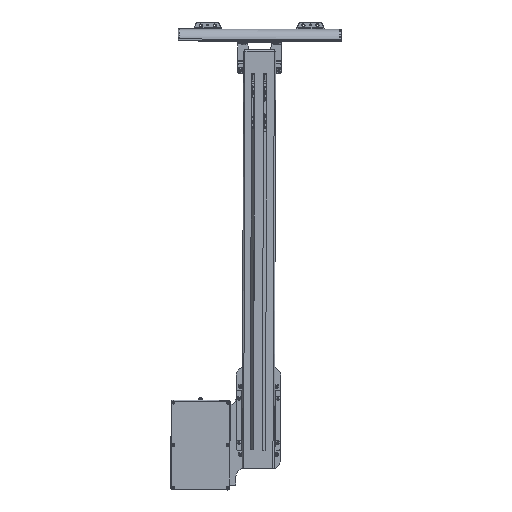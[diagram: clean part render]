
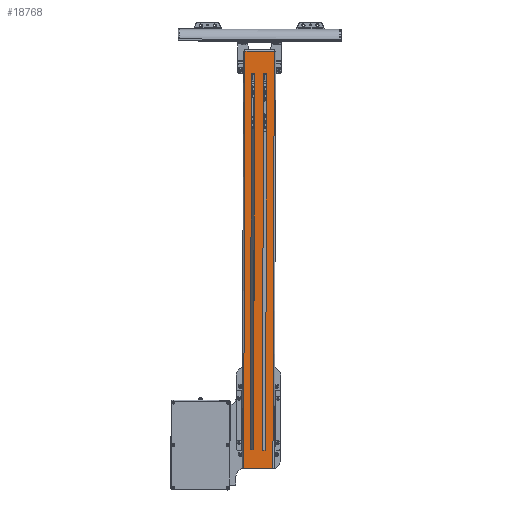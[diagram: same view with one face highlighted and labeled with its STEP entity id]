
A CAD part, top view. The second image highlights one B-rep face of the part: STEP entity #18768.
In plain terms, the highlighted planar face has unit normal (-0.001, -0.001, 1).
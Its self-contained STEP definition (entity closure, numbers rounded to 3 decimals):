
#12746=CIRCLE('',#71910,1.);
#12747=CIRCLE('',#71911,1.);
#12748=CIRCLE('',#71912,1.);
#12749=CIRCLE('',#71913,1.);
#18768=ADVANCED_FACE('',(#31746,#31747,#31748),#20620,.T.);
#20620=PLANE('',#71914);
#24812=LINE('',#158991,#29208);
#24813=LINE('',#158994,#29209);
#24814=LINE('',#158998,#29210);
#24815=LINE('',#159002,#29211);
#24816=LINE('',#159004,#29212);
#24817=LINE('',#159006,#29213);
#24818=LINE('',#159008,#29214);
#24819=LINE('',#159010,#29215);
#24820=LINE('',#159011,#29216);
#24821=LINE('',#159014,#29217);
#24822=LINE('',#159018,#29218);
#24823=LINE('',#159022,#29219);
#24824=LINE('',#159024,#29220);
#24825=LINE('',#159026,#29221);
#24826=LINE('',#159028,#29222);
#24827=LINE('',#159030,#29223);
#24828=LINE('',#159031,#29224);
#24829=LINE('',#159034,#29225);
#24830=LINE('',#159036,#29226);
#24831=LINE('',#159038,#29227);
#29208=VECTOR('',#88163,1.);
#29209=VECTOR('',#88164,1.);
#29210=VECTOR('',#88167,1.);
#29211=VECTOR('',#88170,1.);
#29212=VECTOR('',#88171,1.);
#29213=VECTOR('',#88172,1.);
#29214=VECTOR('',#88173,1.);
#29215=VECTOR('',#88174,1.);
#29216=VECTOR('',#88175,1.);
#29217=VECTOR('',#88176,1.);
#29218=VECTOR('',#88179,1.);
#29219=VECTOR('',#88182,1.);
#29220=VECTOR('',#88183,1.);
#29221=VECTOR('',#88184,1.);
#29222=VECTOR('',#88185,1.);
#29223=VECTOR('',#88186,1.);
#29224=VECTOR('',#88187,1.);
#29225=VECTOR('',#88188,1.);
#29226=VECTOR('',#88189,1.);
#29227=VECTOR('',#88190,1.);
#31746=FACE_BOUND('',#36330,.T.);
#31747=FACE_BOUND('',#36331,.T.);
#31748=FACE_BOUND('',#36332,.T.);
#36330=EDGE_LOOP('',(#51241,#51242,#51243,#51244,#51245,#51246,#51247,#51248,
#51249,#51250));
#36331=EDGE_LOOP('',(#51251,#51252,#51253,#51254,#51255,#51256,#51257,#51258,
#51259,#51260));
#36332=EDGE_LOOP('',(#51261,#51262,#51263,#51264));
#51241=ORIENTED_EDGE('',*,*,#64935,.T.);
#51242=ORIENTED_EDGE('',*,*,#64936,.T.);
#51243=ORIENTED_EDGE('',*,*,#64937,.F.);
#51244=ORIENTED_EDGE('',*,*,#64938,.T.);
#51245=ORIENTED_EDGE('',*,*,#64939,.F.);
#51246=ORIENTED_EDGE('',*,*,#64940,.T.);
#51247=ORIENTED_EDGE('',*,*,#64941,.T.);
#51248=ORIENTED_EDGE('',*,*,#64942,.F.);
#51249=ORIENTED_EDGE('',*,*,#64943,.T.);
#51250=ORIENTED_EDGE('',*,*,#64944,.T.);
#51251=ORIENTED_EDGE('',*,*,#64945,.F.);
#51252=ORIENTED_EDGE('',*,*,#64946,.F.);
#51253=ORIENTED_EDGE('',*,*,#64947,.T.);
#51254=ORIENTED_EDGE('',*,*,#64948,.F.);
#51255=ORIENTED_EDGE('',*,*,#64949,.T.);
#51256=ORIENTED_EDGE('',*,*,#64950,.F.);
#51257=ORIENTED_EDGE('',*,*,#64951,.F.);
#51258=ORIENTED_EDGE('',*,*,#64952,.F.);
#51259=ORIENTED_EDGE('',*,*,#64953,.T.);
#51260=ORIENTED_EDGE('',*,*,#64954,.T.);
#51261=ORIENTED_EDGE('',*,*,#64955,.T.);
#51262=ORIENTED_EDGE('',*,*,#64956,.T.);
#51263=ORIENTED_EDGE('',*,*,#64957,.T.);
#51264=ORIENTED_EDGE('',*,*,#64958,.T.);
#57290=VERTEX_POINT('',#158992);
#57291=VERTEX_POINT('',#158993);
#57292=VERTEX_POINT('',#158995);
#57293=VERTEX_POINT('',#158997);
#57294=VERTEX_POINT('',#158999);
#57295=VERTEX_POINT('',#159001);
#57296=VERTEX_POINT('',#159003);
#57297=VERTEX_POINT('',#159005);
#57298=VERTEX_POINT('',#159007);
#57299=VERTEX_POINT('',#159009);
#57300=VERTEX_POINT('',#159012);
#57301=VERTEX_POINT('',#159013);
#57302=VERTEX_POINT('',#159015);
#57303=VERTEX_POINT('',#159017);
#57304=VERTEX_POINT('',#159019);
#57305=VERTEX_POINT('',#159021);
#57306=VERTEX_POINT('',#159023);
#57307=VERTEX_POINT('',#159025);
#57308=VERTEX_POINT('',#159027);
#57309=VERTEX_POINT('',#159029);
#57310=VERTEX_POINT('',#159032);
#57311=VERTEX_POINT('',#159033);
#57312=VERTEX_POINT('',#159035);
#57313=VERTEX_POINT('',#159037);
#64935=EDGE_CURVE('',#57290,#57291,#24812,.T.);
#64936=EDGE_CURVE('',#57291,#57292,#24813,.T.);
#64937=EDGE_CURVE('',#57293,#57292,#12746,.T.);
#64938=EDGE_CURVE('',#57293,#57294,#24814,.T.);
#64939=EDGE_CURVE('',#57295,#57294,#12747,.T.);
#64940=EDGE_CURVE('',#57295,#57296,#24815,.T.);
#64941=EDGE_CURVE('',#57296,#57297,#24816,.T.);
#64942=EDGE_CURVE('',#57298,#57297,#24817,.T.);
#64943=EDGE_CURVE('',#57298,#57299,#24818,.T.);
#64944=EDGE_CURVE('',#57299,#57290,#24819,.T.);
#64945=EDGE_CURVE('',#57300,#57301,#24820,.T.);
#64946=EDGE_CURVE('',#57302,#57300,#24821,.T.);
#64947=EDGE_CURVE('',#57302,#57303,#12748,.T.);
#64948=EDGE_CURVE('',#57304,#57303,#24822,.T.);
#64949=EDGE_CURVE('',#57304,#57305,#12749,.T.);
#64950=EDGE_CURVE('',#57306,#57305,#24823,.T.);
#64951=EDGE_CURVE('',#57307,#57306,#24824,.T.);
#64952=EDGE_CURVE('',#57308,#57307,#24825,.T.);
#64953=EDGE_CURVE('',#57308,#57309,#24826,.T.);
#64954=EDGE_CURVE('',#57309,#57301,#24827,.T.);
#64955=EDGE_CURVE('',#57310,#57311,#24828,.T.);
#64956=EDGE_CURVE('',#57311,#57312,#24829,.T.);
#64957=EDGE_CURVE('',#57312,#57313,#24830,.T.);
#64958=EDGE_CURVE('',#57313,#57310,#24831,.T.);
#71910=AXIS2_PLACEMENT_3D('',#158996,#88165,#88166);
#71911=AXIS2_PLACEMENT_3D('',#159000,#88168,#88169);
#71912=AXIS2_PLACEMENT_3D('',#159016,#88177,#88178);
#71913=AXIS2_PLACEMENT_3D('',#159020,#88180,#88181);
#71914=AXIS2_PLACEMENT_3D('',#159039,#88191,#88192);
#88163=DIRECTION('',(1.,-0.003,0.));
#88164=DIRECTION('',(-0.003,-1.,-0.001));
#88165=DIRECTION('',(0.,-0.001,1.));
#88166=DIRECTION('',(1.,-0.003,0.));
#88167=DIRECTION('',(-1.,0.003,0.));
#88168=DIRECTION('',(0.,-0.001,1.));
#88169=DIRECTION('',(1.,-0.003,0.));
#88170=DIRECTION('',(0.003,1.,0.001));
#88171=DIRECTION('',(1.,-0.003,0.));
#88172=DIRECTION('',(0.003,1.,0.001));
#88173=DIRECTION('',(1.,-0.003,0.));
#88174=DIRECTION('',(0.003,1.,0.001));
#88175=DIRECTION('',(-1.,0.003,0.));
#88176=DIRECTION('',(0.003,1.,0.001));
#88177=DIRECTION('',(0.,0.001,-1.));
#88178=DIRECTION('',(1.,-0.003,0.));
#88179=DIRECTION('',(1.,-0.003,0.));
#88180=DIRECTION('',(0.,0.001,-1.));
#88181=DIRECTION('',(1.,-0.003,0.));
#88182=DIRECTION('',(-0.003,-1.,-0.001));
#88183=DIRECTION('',(-1.,0.003,0.));
#88184=DIRECTION('',(0.003,1.,0.001));
#88185=DIRECTION('',(1.,-0.003,0.));
#88186=DIRECTION('',(0.003,1.,0.001));
#88187=DIRECTION('',(0.003,1.,0.001));
#88188=DIRECTION('',(-1.,0.003,0.));
#88189=DIRECTION('',(-0.003,-1.,-0.001));
#88190=DIRECTION('',(1.,-0.003,0.));
#88191=DIRECTION('',(0.,-0.001,1.));
#88192=DIRECTION('',(1.,-0.003,0.));
#158991=CARTESIAN_POINT('',(39.789,-46.263,132.472));
#158992=CARTESIAN_POINT('',(-13.711,-46.088,132.448));
#158993=CARTESIAN_POINT('',(-12.211,-46.093,132.448));
#158994=CARTESIAN_POINT('',(-15.43,-1030.087,131.463));
#158995=CARTESIAN_POINT('',(-15.276,-983.088,131.51));
#158996=CARTESIAN_POINT('',(-16.276,-983.084,131.509));
#158997=CARTESIAN_POINT('',(-16.28,-984.084,131.508));
#158998=CARTESIAN_POINT('',(36.72,-984.258,131.532));
#158999=CARTESIAN_POINT('',(-22.28,-984.065,131.506));
#159000=CARTESIAN_POINT('',(-22.276,-983.065,131.507));
#159001=CARTESIAN_POINT('',(-23.276,-983.061,131.506));
#159002=CARTESIAN_POINT('',(-23.43,-1030.061,131.459));
#159003=CARTESIAN_POINT('',(-20.211,-46.067,132.445));
#159004=CARTESIAN_POINT('',(39.789,-46.263,132.472));
#159005=CARTESIAN_POINT('',(-18.711,-46.072,132.445));
#159006=CARTESIAN_POINT('',(-18.713,-46.572,132.445));
#159007=CARTESIAN_POINT('',(-18.712,-46.388,132.445));
#159008=CARTESIAN_POINT('',(-18.712,-46.388,132.445));
#159009=CARTESIAN_POINT('',(-13.712,-46.404,132.447));
#159010=CARTESIAN_POINT('',(-13.713,-46.588,132.447));
#159011=CARTESIAN_POINT('',(39.789,-46.263,132.472));
#159012=CARTESIAN_POINT('',(17.789,-46.191,132.462));
#159013=CARTESIAN_POINT('',(16.289,-46.186,132.461));
#159014=CARTESIAN_POINT('',(14.57,-1030.185,131.476));
#159015=CARTESIAN_POINT('',(14.724,-983.186,131.523));
#159016=CARTESIAN_POINT('',(13.724,-983.182,131.523));
#159017=CARTESIAN_POINT('',(13.72,-984.182,131.522));
#159018=CARTESIAN_POINT('',(36.72,-984.258,131.532));
#159019=CARTESIAN_POINT('',(7.72,-984.163,131.519));
#159020=CARTESIAN_POINT('',(7.724,-983.163,131.52));
#159021=CARTESIAN_POINT('',(6.724,-983.16,131.52));
#159022=CARTESIAN_POINT('',(6.57,-1030.159,131.473));
#159023=CARTESIAN_POINT('',(9.789,-46.165,132.458));
#159024=CARTESIAN_POINT('',(39.789,-46.263,132.472));
#159025=CARTESIAN_POINT('',(11.289,-46.17,132.459));
#159026=CARTESIAN_POINT('',(11.287,-46.67,132.459));
#159027=CARTESIAN_POINT('',(11.288,-46.486,132.459));
#159028=CARTESIAN_POINT('',(11.288,-46.486,132.459));
#159029=CARTESIAN_POINT('',(16.288,-46.502,132.461));
#159030=CARTESIAN_POINT('',(16.287,-46.686,132.461));
#159031=CARTESIAN_POINT('',(33.07,-1030.246,131.485));
#159032=CARTESIAN_POINT('',(33.07,-1030.246,131.485));
#159033=CARTESIAN_POINT('',(36.472,9.748,132.526));
#159034=CARTESIAN_POINT('',(39.972,9.737,132.528));
#159035=CARTESIAN_POINT('',(-36.528,9.987,132.493));
#159036=CARTESIAN_POINT('',(-37.509,-290.011,132.193));
#159037=CARTESIAN_POINT('',(-39.93,-1030.007,131.452));
#159038=CARTESIAN_POINT('',(-43.43,-1029.996,131.45));
#159039=CARTESIAN_POINT('',(36.57,-1030.257,131.486));
